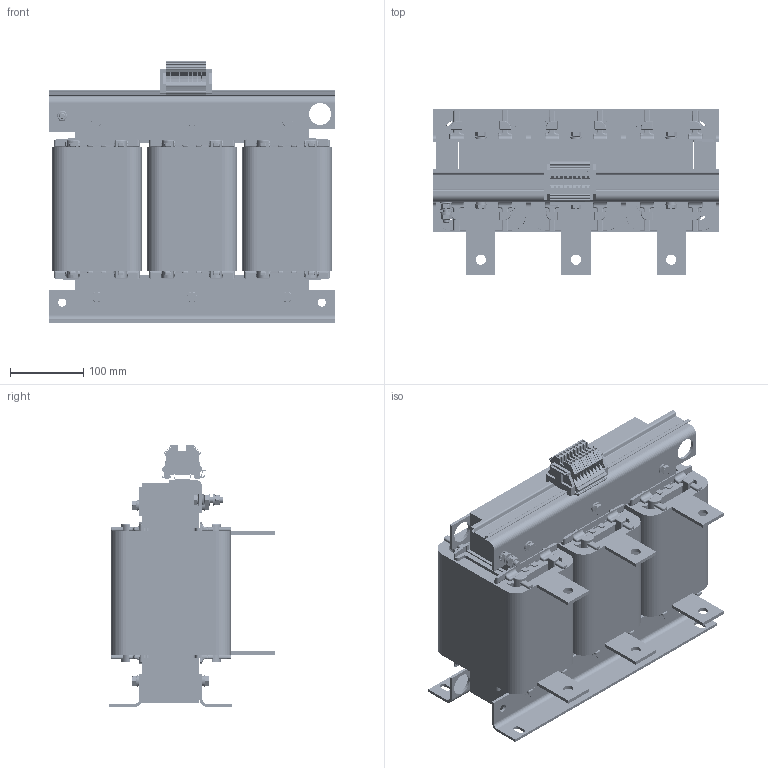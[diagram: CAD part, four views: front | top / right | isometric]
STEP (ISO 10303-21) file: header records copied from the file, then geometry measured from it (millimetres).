
FILE_DESCRIPTION((''),'2;1');
FILE_NAME('C:\Users\fp1\CAD-Daten\DT\DT10,0 400 18 24.stp','2014-07-01T09:44:14',('FP1'),(''),'Autodesk Inventor 2013','Autodesk Inventor 2013','');
FILE_SCHEMA(('AUTOMOTIVE_DESIGN { 1 0 10303 214 1 1 1 1 }'));
Length unit declared in the file: millimetre
Products named in the file (1): Bauteil96
Bounding box: 390 x 225.55 x 357 mm (x, y, z)
Volume: 12806335.9 mm3; surface area: 1527584.1 mm2
Topology: 4 solids, 4 shells, 8429 faces, 23869 edges, 15332 vertices
Faces by surface type: plane 6181, cylinder 1645, bspline 188, torus 170, sphere 168, cone 77
Full cylindrical faces by diameter (mm): 2.95 x72, 4.725 x18, 8 x3, 8.3 x2, 8.4 x2, 11 x3, 11.63 x7, 14 x18, 16 x14, 30 x4
Entity records: 273364 total; most frequent: CARTESIAN_POINT 57849, ORIENTED_EDGE 46704, DIRECTION 41887, EDGE_CURVE 23352, VECTOR 17013, LINE 17013, VERTEX_POINT 15149, AXIS2_PLACEMENT_3D 12437
